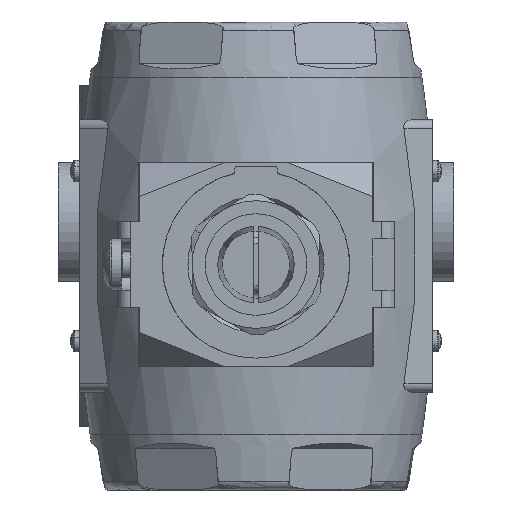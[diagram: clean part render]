
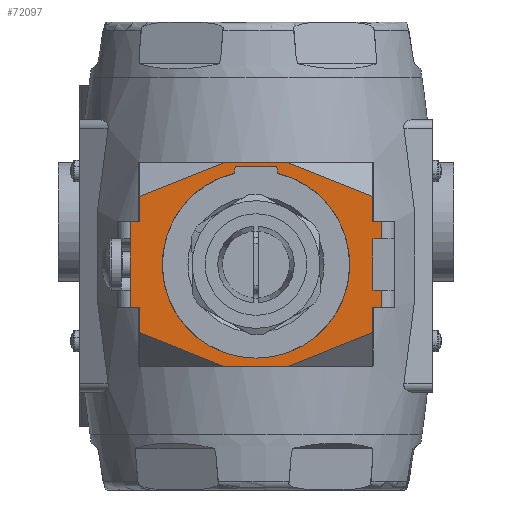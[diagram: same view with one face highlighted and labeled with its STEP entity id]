
A CAD part, front view. The second image highlights one B-rep face of the part: STEP entity #72097.
In plain terms, the highlighted planar face has unit normal (0, -1, 0).
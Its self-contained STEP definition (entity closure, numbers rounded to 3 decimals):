
#16837=DIRECTION('',(-1.,0.,0.));
#16838=VECTOR('',#16837,2.);
#16839=CARTESIAN_POINT('',(-37.182,32.87,
129.617));
#16840=LINE('',#16839,#16838);
#16841=DIRECTION('',(0.,0.,-1.));
#16842=VECTOR('',#16841,6.);
#16843=CARTESIAN_POINT('',(-37.182,32.87,
135.617));
#16844=LINE('',#16843,#16842);
#16845=DIRECTION('',(-0.928,0.,-0.371));
#16846=VECTOR('',#16845,21.541);
#16847=CARTESIAN_POINT('',(-17.182,32.87,
143.617));
#16848=LINE('',#16847,#16846);
#16849=DIRECTION('',(-1.,0.,0.));
#16850=VECTOR('',#16849,15.);
#16851=CARTESIAN_POINT('',(-2.182,32.87,
143.617));
#16852=LINE('',#16851,#16850);
#16853=DIRECTION('',(0.,0.,1.));
#16854=VECTOR('',#16853,12.);
#16855=CARTESIAN_POINT('',(17.818,32.87,113.617));
#16856=LINE('',#16855,#16854);
#16857=DIRECTION('',(-1.,0.,0.));
#16858=VECTOR('',#16857,2.);
#16859=CARTESIAN_POINT('',(19.818,32.87,113.617));
#16860=LINE('',#16859,#16858);
#16861=DIRECTION('',(1.,0.,0.));
#16862=VECTOR('',#16861,2.);
#16863=CARTESIAN_POINT('',(17.818,32.87,109.617));
#16864=LINE('',#16863,#16862);
#16865=DIRECTION('',(0.928,0.,0.371));
#16866=VECTOR('',#16865,21.541);
#16867=CARTESIAN_POINT('',(-2.182,32.87,
95.617));
#16868=LINE('',#16867,#16866);
#16869=DIRECTION('',(0.,0.,-1.));
#16870=VECTOR('',#16869,6.);
#16871=CARTESIAN_POINT('',(-37.182,32.87,
109.617));
#16872=LINE('',#16871,#16870);
#16873=DIRECTION('',(0.,0.,-1.));
#16874=VECTOR('',#16873,12.);
#16875=CARTESIAN_POINT('',(-39.182,32.87,
125.617));
#16876=LINE('',#16875,#16874);
#16877=CARTESIAN_POINT('',(-9.682,32.87,
119.617));
#16878=DIRECTION('',(0.,1.,0.));
#16879=DIRECTION('',(0.,0.,-1.));
#16880=AXIS2_PLACEMENT_3D('',#16877,#16878,#16879);
#16882=CARTESIAN_POINT('',(-9.682,32.87,
119.617));
#16883=DIRECTION('',(0.,1.,0.));
#16884=DIRECTION('',(0.,0.,1.));
#16885=AXIS2_PLACEMENT_3D('',#16882,#16883,#16884);
#16939=DIRECTION('',(0.,0.,1.));
#16940=VECTOR('',#16939,4.);
#16941=CARTESIAN_POINT('',(-39.182,32.87,
125.617));
#16942=LINE('',#16941,#16940);
#17031=DIRECTION('',(0.,0.,1.));
#17032=VECTOR('',#17031,4.);
#17033=CARTESIAN_POINT('',(-39.182,32.87,
109.617));
#17034=LINE('',#17033,#17032);
#17035=DIRECTION('',(-1.,0.,0.));
#17036=VECTOR('',#17035,2.);
#17037=CARTESIAN_POINT('',(-37.182,32.87,
109.617));
#17038=LINE('',#17037,#17036);
#17065=DIRECTION('',(-0.928,0.,0.371));
#17066=VECTOR('',#17065,21.541);
#17067=CARTESIAN_POINT('',(-17.182,32.87,
95.617));
#17068=LINE('',#17067,#17066);
#17073=DIRECTION('',(-1.,0.,0.));
#17074=VECTOR('',#17073,15.);
#17075=CARTESIAN_POINT('',(-2.182,32.87,
95.617));
#17076=LINE('',#17075,#17074);
#17106=DIRECTION('',(0.,0.,-1.));
#17107=VECTOR('',#17106,6.);
#17108=CARTESIAN_POINT('',(17.818,32.87,109.617));
#17109=LINE('',#17108,#17107);
#17164=DIRECTION('',(0.,0.,-1.));
#17165=VECTOR('',#17164,4.);
#17166=CARTESIAN_POINT('',(19.818,32.87,129.617));
#17167=LINE('',#17166,#17165);
#17181=DIRECTION('',(-1.,0.,0.));
#17182=VECTOR('',#17181,2.);
#17183=CARTESIAN_POINT('',(19.818,32.87,125.617));
#17184=LINE('',#17183,#17182);
#17230=DIRECTION('',(0.,0.,-1.));
#17231=VECTOR('',#17230,4.);
#17232=CARTESIAN_POINT('',(19.818,32.87,113.617));
#17233=LINE('',#17232,#17231);
#17250=DIRECTION('',(1.,0.,0.));
#17251=VECTOR('',#17250,2.);
#17252=CARTESIAN_POINT('',(17.818,32.87,129.617));
#17253=LINE('',#17252,#17251);
#17282=DIRECTION('',(0.,0.,-1.));
#17283=VECTOR('',#17282,6.);
#17284=CARTESIAN_POINT('',(17.818,32.87,135.617));
#17285=LINE('',#17284,#17283);
#17294=DIRECTION('',(0.928,0.,-0.371));
#17295=VECTOR('',#17294,21.541);
#17296=CARTESIAN_POINT('',(-2.182,32.87,
143.617));
#17297=LINE('',#17296,#17295);
#45008=CARTESIAN_POINT('',(-37.182,32.87,
135.617));
#45010=VERTEX_POINT('',#45008);
#45032=CARTESIAN_POINT('',(-39.182,32.87,
109.617));
#45034=VERTEX_POINT('',#45032);
#45082=CARTESIAN_POINT('',(-37.182,32.87,
109.617));
#45084=VERTEX_POINT('',#45082);
#45098=CARTESIAN_POINT('',(17.818,32.87,125.617));
#45100=VERTEX_POINT('',#45098);
#45199=CARTESIAN_POINT('',(-39.182,32.87,
129.617));
#45201=VERTEX_POINT('',#45199);
#45258=CARTESIAN_POINT('',(-9.682,32.87,
141.617));
#45260=VERTEX_POINT('',#45258);
#45309=CARTESIAN_POINT('',(-39.182,32.87,
113.617));
#45311=VERTEX_POINT('',#45309);
#45313=CARTESIAN_POINT('',(19.818,32.87,109.617));
#45315=VERTEX_POINT('',#45313);
#45316=CARTESIAN_POINT('',(-37.182,32.87,
129.617));
#45317=VERTEX_POINT('',#45316);
#45318=CARTESIAN_POINT('',(19.818,32.87,113.617));
#45319=VERTEX_POINT('',#45318);
#45366=CARTESIAN_POINT('',(-17.182,32.87,
95.617));
#45367=CARTESIAN_POINT('',(-37.182,32.87,
103.617));
#45368=VERTEX_POINT('',#45366);
#45369=VERTEX_POINT('',#45367);
#45396=CARTESIAN_POINT('',(-2.182,32.87,
143.617));
#45397=CARTESIAN_POINT('',(17.818,32.87,135.617));
#45398=VERTEX_POINT('',#45396);
#45399=VERTEX_POINT('',#45397);
#45483=CARTESIAN_POINT('',(-39.182,32.87,
125.617));
#45484=VERTEX_POINT('',#45483);
#45493=CARTESIAN_POINT('',(17.818,32.87,113.617));
#45494=VERTEX_POINT('',#45493);
#45519=CARTESIAN_POINT('',(17.818,32.87,109.617));
#45520=VERTEX_POINT('',#45519);
#45545=CARTESIAN_POINT('',(19.818,32.87,129.617));
#45546=CARTESIAN_POINT('',(19.818,32.87,125.617));
#45547=VERTEX_POINT('',#45545);
#45548=VERTEX_POINT('',#45546);
#45668=CARTESIAN_POINT('',(17.818,32.87,103.617));
#45669=VERTEX_POINT('',#45668);
#45718=CARTESIAN_POINT('',(-2.182,32.87,
95.617));
#45719=VERTEX_POINT('',#45718);
#45720=CARTESIAN_POINT('',(17.818,32.87,129.617));
#45721=VERTEX_POINT('',#45720);
#45788=CARTESIAN_POINT('',(-9.682,32.87,
97.617));
#45789=VERTEX_POINT('',#45788);
#45798=CARTESIAN_POINT('',(-17.182,32.87,
143.617));
#45799=VERTEX_POINT('',#45798);
#72042=CARTESIAN_POINT('',(-37.182,32.87,
95.617));
#72043=DIRECTION('',(0.,-1.,0.));
#72044=DIRECTION('',(0.,0.,-1.));
#72045=AXIS2_PLACEMENT_3D('',#72042,#72043,#72044);
#72046=PLANE('',#72045);
#72048=ORIENTED_EDGE('',*,*,#72047,.F.);
#72050=ORIENTED_EDGE('',*,*,#72049,.F.);
#72052=ORIENTED_EDGE('',*,*,#72051,.F.);
#72054=ORIENTED_EDGE('',*,*,#72053,.F.);
#72056=ORIENTED_EDGE('',*,*,#72055,.T.);
#72058=ORIENTED_EDGE('',*,*,#72057,.T.);
#72060=ORIENTED_EDGE('',*,*,#72059,.T.);
#72062=ORIENTED_EDGE('',*,*,#72061,.T.);
#72064=ORIENTED_EDGE('',*,*,#72063,.T.);
#72066=ORIENTED_EDGE('',*,*,#72065,.F.);
#72068=ORIENTED_EDGE('',*,*,#72067,.F.);
#72070=ORIENTED_EDGE('',*,*,#72069,.T.);
#72072=ORIENTED_EDGE('',*,*,#72071,.F.);
#72074=ORIENTED_EDGE('',*,*,#72073,.T.);
#72076=ORIENTED_EDGE('',*,*,#72075,.F.);
#72078=ORIENTED_EDGE('',*,*,#72077,.T.);
#72080=ORIENTED_EDGE('',*,*,#72079,.T.);
#72082=ORIENTED_EDGE('',*,*,#72081,.F.);
#72084=ORIENTED_EDGE('',*,*,#72083,.T.);
#72086=ORIENTED_EDGE('',*,*,#72085,.T.);
#72088=ORIENTED_EDGE('',*,*,#72087,.F.);
#72090=ORIENTED_EDGE('',*,*,#72089,.T.);
#72091=EDGE_LOOP('',(#72048,#72050,#72052,#72054,#72056,#72058,#72060,#72062,
#72064,#72066,#72068,#72070,#72072,#72074,#72076,#72078,#72080,#72082,#72084,
#72086,#72088,#72090));
#72092=FACE_OUTER_BOUND('',#72091,.F.);
#72093=ORIENTED_EDGE('',*,*,#72035,.F.);
#72094=ORIENTED_EDGE('',*,*,#72022,.F.);
#72095=EDGE_LOOP('',(#72093,#72094));
#72096=FACE_BOUND('',#72095,.F.);
#72097=ADVANCED_FACE('',(#72092,#72096),#72046,.T.);
#16881=CIRCLE('',#16880,22.);
#16886=CIRCLE('',#16885,22.);
#72022=EDGE_CURVE('',#45260,#45789,#16886,.T.);
#72035=EDGE_CURVE('',#45789,#45260,#16881,.T.);
#72047=EDGE_CURVE('',#45317,#45201,#16840,.T.);
#72049=EDGE_CURVE('',#45010,#45317,#16844,.T.);
#72051=EDGE_CURVE('',#45799,#45010,#16848,.T.);
#72053=EDGE_CURVE('',#45398,#45799,#16852,.T.);
#72055=EDGE_CURVE('',#45398,#45399,#17297,.T.);
#72057=EDGE_CURVE('',#45399,#45721,#17285,.T.);
#72059=EDGE_CURVE('',#45721,#45547,#17253,.T.);
#72061=EDGE_CURVE('',#45547,#45548,#17167,.T.);
#72063=EDGE_CURVE('',#45548,#45100,#17184,.T.);
#72065=EDGE_CURVE('',#45494,#45100,#16856,.T.);
#72067=EDGE_CURVE('',#45319,#45494,#16860,.T.);
#72069=EDGE_CURVE('',#45319,#45315,#17233,.T.);
#72071=EDGE_CURVE('',#45520,#45315,#16864,.T.);
#72073=EDGE_CURVE('',#45520,#45669,#17109,.T.);
#72075=EDGE_CURVE('',#45719,#45669,#16868,.T.);
#72077=EDGE_CURVE('',#45719,#45368,#17076,.T.);
#72079=EDGE_CURVE('',#45368,#45369,#17068,.T.);
#72081=EDGE_CURVE('',#45084,#45369,#16872,.T.);
#72083=EDGE_CURVE('',#45084,#45034,#17038,.T.);
#72085=EDGE_CURVE('',#45034,#45311,#17034,.T.);
#72087=EDGE_CURVE('',#45484,#45311,#16876,.T.);
#72089=EDGE_CURVE('',#45484,#45201,#16942,.T.);
